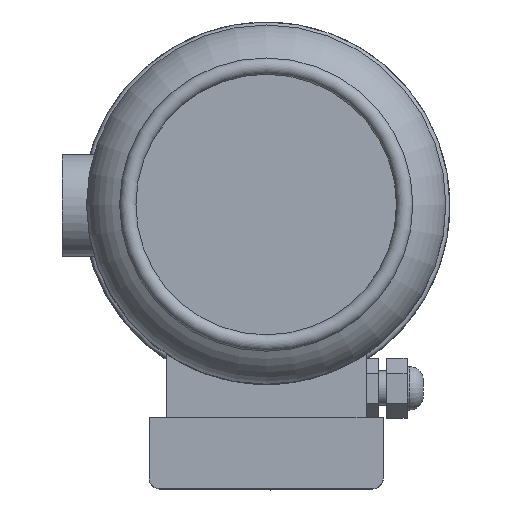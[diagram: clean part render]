
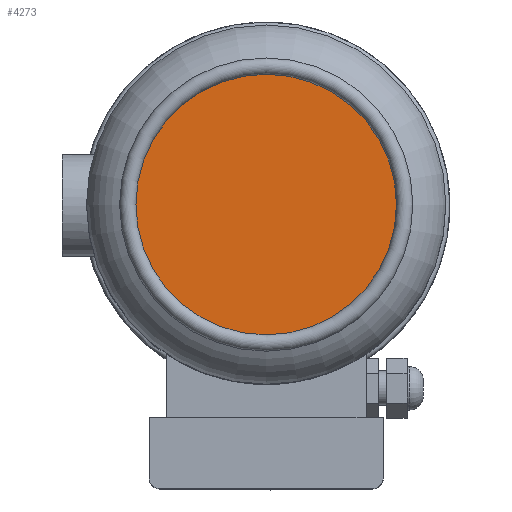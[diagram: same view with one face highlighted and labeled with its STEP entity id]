
A CAD part, top view. The second image highlights one B-rep face of the part: STEP entity #4273.
In plain terms, the highlighted planar face has unit normal (0, 0, 1).
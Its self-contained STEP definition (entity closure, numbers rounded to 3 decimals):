
#472=CIRCLE('',#4636,63.82);
#1587=ORIENTED_EDGE('',*,*,#2149,.F.);
#2149=EDGE_CURVE('',#2556,#2556,#472,.T.);
#2556=VERTEX_POINT('',#10059);
#3493=EDGE_LOOP('',(#1587));
#3895=FACE_BOUND('',#3493,.T.);
#4005=PLANE('',#4635);
#4273=ADVANCED_FACE('',(#3895),#4005,.T.);
#4635=AXIS2_PLACEMENT_3D('',#10057,#5603,#5604);
#4636=AXIS2_PLACEMENT_3D('',#10058,#5605,#5606);
#5603=DIRECTION('',(0.,0.,1.));
#5604=DIRECTION('',(1.,0.,0.));
#5605=DIRECTION('',(0.,0.,-1.));
#5606=DIRECTION('',(-1.,0.,0.));
#10057=CARTESIAN_POINT('',(-63.82,0.,875.26));
#10058=CARTESIAN_POINT('',(0.,0.,875.26));
#10059=CARTESIAN_POINT('',(-63.82,0.,875.26));
